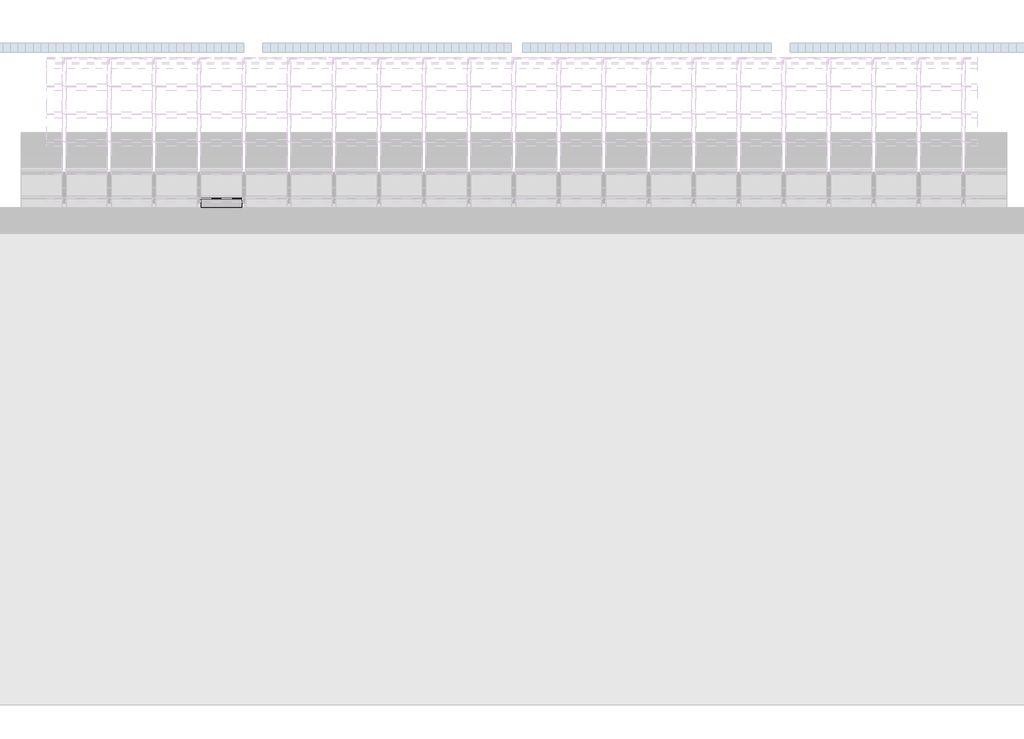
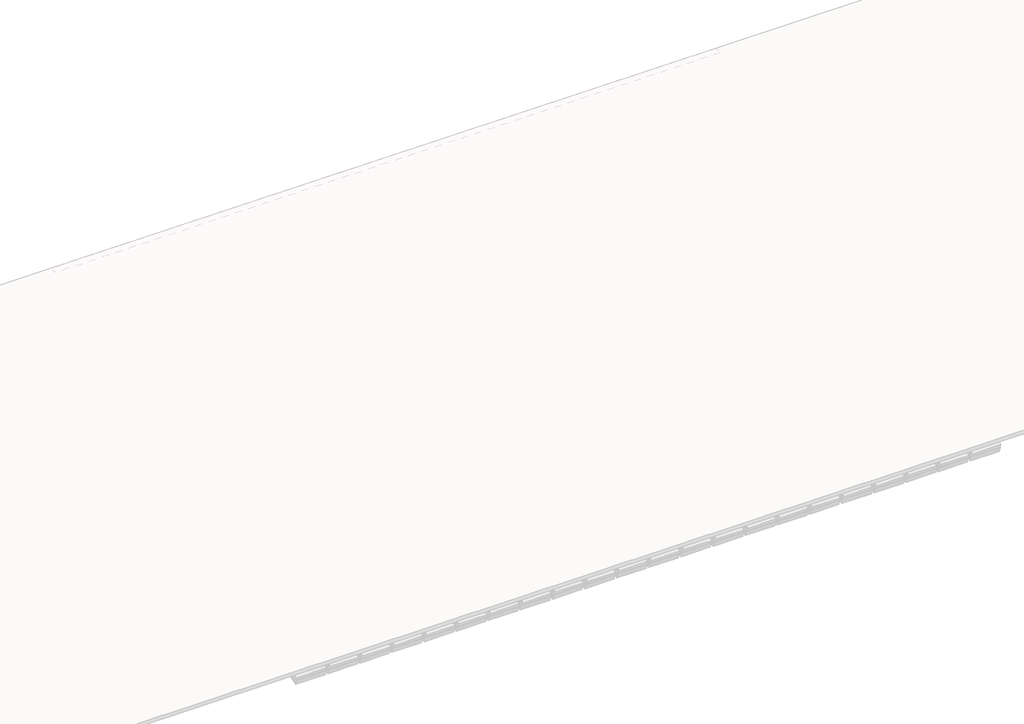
# One storey, part 29 of 57: 88 members, 36 plates.
"""IFC4 building model written with IfcOpenShell, lengths in millimetres."""

from ifc_helpers import new_model, si_unit, origin, place, context, project, spatial, transform, mapped, element, save
from components import rectangular_mullion_59984080, rectangular_mullion_2d2423ea, rectangular_mullion_caibro_e4384bba, rectangular_mullion_caibro_9bd7bc61, empty_system_panel_vazio_178faf58, empty_system_panel_vazio_2c78850d

model = new_model("IFC4")

# Units and contexts
model_context = context("Model", 3, world=origin())
ifc_project = project(units=[si_unit("LENGTHUNIT", "METRE", prefix="MILLI")], contexts=[model_context])

# Site, building, storey
site = spatial("IfcSite", under=ifc_project)
building = spatial("IfcBuilding", under=site)
storey = spatial("IfcBuildingStorey", under=building, Name="Nível 2", Elevation=4100.0)

# Members
placement = place(None, origin())
rectangular_mullion_shape = rectangular_mullion_59984080(model_context)
element("IfcMember", 1, ObjectType="Rectangular Mullion : Ripa", at=placement, inside=storey, context=model_context, shape_type="MappedRepresentation", body=[
    mapped(rectangular_mullion_shape, transform((22076.5423706, 10013.4695628, 4154.0900474), x_axis=(0.0, 0.9578262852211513, 0.2873478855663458), y_axis=(0.0, 0.2873478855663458, -0.9578262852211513), z_axis=(-1.0, 0.0, 0.0))),
])
element("IfcMember", 2, ObjectType="Rectangular Mullion : Ripa", at=placement, inside=storey, context=model_context, shape_type="MappedRepresentation", body=[
    mapped(rectangular_mullion_shape, transform((22673.597127, 10013.4695628, 4154.0900474), x_axis=(0.0, 0.9578262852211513, 0.2873478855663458), y_axis=(0.0, 0.2873478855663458, -0.9578262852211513), z_axis=(-1.0, 0.0, 0.0))),
])
element("IfcMember", 3, ObjectType="Rectangular Mullion : Ripa", at=placement, inside=storey, context=model_context, shape_type="MappedRepresentation", body=[
    mapped(rectangular_mullion_shape, transform((23270.6518835, 10013.4695628, 4154.0900474), x_axis=(0.0, 0.9578262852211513, 0.2873478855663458), y_axis=(0.0, 0.2873478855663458, -0.9578262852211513), z_axis=(-1.0, 0.0, 0.0))),
])
element("IfcMember", 4, ObjectType="Rectangular Mullion : Ripa", at=placement, inside=storey, context=model_context, shape_type="MappedRepresentation", body=[
    mapped(rectangular_mullion_shape, transform((23867.7066399, 10013.4695628, 4154.0900474), x_axis=(0.0, 0.9578262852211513, 0.2873478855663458), y_axis=(0.0, 0.2873478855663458, -0.9578262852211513), z_axis=(-1.0, 0.0, 0.0))),
])
element("IfcMember", 5, ObjectType="Rectangular Mullion : Ripa", at=placement, inside=storey, context=model_context, shape_type="MappedRepresentation", body=[
    mapped(rectangular_mullion_shape, transform((22076.5423706, 10383.6468214, 4265.143225), x_axis=(0.0, 0.9578262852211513, 0.2873478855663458), y_axis=(0.0, 0.2873478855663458, -0.9578262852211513), z_axis=(-1.0, 0.0, 0.0))),
])
element("IfcMember", 6, ObjectType="Rectangular Mullion : Ripa", at=placement, inside=storey, context=model_context, shape_type="MappedRepresentation", body=[
    mapped(rectangular_mullion_shape, transform((22673.597127, 10383.6468214, 4265.143225), x_axis=(0.0, 0.9578262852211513, 0.2873478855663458), y_axis=(0.0, 0.2873478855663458, -0.9578262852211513), z_axis=(-1.0, 0.0, 0.0))),
])
element("IfcMember", 7, ObjectType="Rectangular Mullion : Ripa", at=placement, inside=storey, context=model_context, shape_type="MappedRepresentation", body=[
    mapped(rectangular_mullion_shape, transform((23270.6518835, 10383.6468214, 4265.143225), x_axis=(0.0, 0.9578262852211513, 0.2873478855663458), y_axis=(0.0, 0.2873478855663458, -0.9578262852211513), z_axis=(-1.0, 0.0, 0.0))),
])
element("IfcMember", 8, ObjectType="Rectangular Mullion : Ripa", at=placement, inside=storey, context=model_context, shape_type="MappedRepresentation", body=[
    mapped(rectangular_mullion_shape, transform((23867.7066399, 10383.6468214, 4265.143225), x_axis=(0.0, 0.9578262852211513, 0.2873478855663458), y_axis=(0.0, 0.2873478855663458, -0.9578262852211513), z_axis=(-1.0, 0.0, 0.0))),
])
element("IfcMember", 9, ObjectType="Rectangular Mullion : Ripa", at=placement, inside=storey, context=model_context, shape_type="MappedRepresentation", body=[
    mapped(rectangular_mullion_shape, transform((22076.5423706, 10753.8240801, 4376.1964026), x_axis=(0.0, 0.9578262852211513, 0.2873478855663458), y_axis=(0.0, 0.2873478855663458, -0.9578262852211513), z_axis=(-1.0, 0.0, 0.0))),
])
element("IfcMember", 10, ObjectType="Rectangular Mullion : Ripa", at=placement, inside=storey, context=model_context, shape_type="MappedRepresentation", body=[
    mapped(rectangular_mullion_shape, transform((22673.597127, 10753.8240801, 4376.1964026), x_axis=(0.0, 0.9578262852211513, 0.2873478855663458), y_axis=(0.0, 0.2873478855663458, -0.9578262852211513), z_axis=(-1.0, 0.0, 0.0))),
])
element("IfcMember", 11, ObjectType="Rectangular Mullion : Ripa", at=placement, inside=storey, context=model_context, shape_type="MappedRepresentation", body=[
    mapped(rectangular_mullion_shape, transform((23270.6518835, 10753.8240801, 4376.1964026), x_axis=(0.0, 0.9578262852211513, 0.2873478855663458), y_axis=(0.0, 0.2873478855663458, -0.9578262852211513), z_axis=(-1.0, 0.0, 0.0))),
])
element("IfcMember", 12, ObjectType="Rectangular Mullion : Ripa", at=placement, inside=storey, context=model_context, shape_type="MappedRepresentation", body=[
    mapped(rectangular_mullion_shape, transform((23867.7066399, 10753.8240801, 4376.1964026), x_axis=(0.0, 0.9578262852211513, 0.2873478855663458), y_axis=(0.0, 0.2873478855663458, -0.9578262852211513), z_axis=(-1.0, 0.0, 0.0))),
])
element("IfcMember", 13, ObjectType="Rectangular Mullion : Ripa", at=placement, inside=storey, context=model_context, shape_type="MappedRepresentation", body=[
    mapped(rectangular_mullion_shape, transform((21479.4876142, 11124.0013387, 4487.2495802), x_axis=(0.0, 0.9578262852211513, 0.2873478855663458), y_axis=(0.0, 0.2873478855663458, -0.9578262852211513), z_axis=(-1.0, 0.0, 0.0))),
])
element("IfcMember", 14, ObjectType="Rectangular Mullion : Ripa", at=placement, inside=storey, context=model_context, shape_type="MappedRepresentation", body=[
    mapped(rectangular_mullion_shape, transform((22076.5423706, 11124.0013387, 4487.2495802), x_axis=(0.0, 0.9578262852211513, 0.2873478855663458), y_axis=(0.0, 0.2873478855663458, -0.9578262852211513), z_axis=(-1.0, 0.0, 0.0))),
])
element("IfcMember", 15, ObjectType="Rectangular Mullion : Ripa", at=placement, inside=storey, context=model_context, shape_type="MappedRepresentation", body=[
    mapped(rectangular_mullion_shape, transform((22673.597127, 11124.0013387, 4487.2495802), x_axis=(0.0, 0.9578262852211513, 0.2873478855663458), y_axis=(0.0, 0.2873478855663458, -0.9578262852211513), z_axis=(-1.0, 0.0, 0.0))),
])
element("IfcMember", 16, ObjectType="Rectangular Mullion : Ripa", at=placement, inside=storey, context=model_context, shape_type="MappedRepresentation", body=[
    mapped(rectangular_mullion_shape, transform((23270.6518835, 11124.0013387, 4487.2495802), x_axis=(0.0, 0.9578262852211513, 0.2873478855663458), y_axis=(0.0, 0.2873478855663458, -0.9578262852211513), z_axis=(-1.0, 0.0, 0.0))),
])
element("IfcMember", 17, ObjectType="Rectangular Mullion : Ripa", at=placement, inside=storey, context=model_context, shape_type="MappedRepresentation", body=[
    mapped(rectangular_mullion_shape, transform((23867.7066399, 11124.0013387, 4487.2495802), x_axis=(0.0, 0.9578262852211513, 0.2873478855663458), y_axis=(0.0, 0.2873478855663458, -0.9578262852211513), z_axis=(-1.0, 0.0, 0.0))),
])
element("IfcMember", 18, ObjectType="Rectangular Mullion : Ripa", at=placement, inside=storey, context=model_context, shape_type="MappedRepresentation", body=[
    mapped(rectangular_mullion_shape, transform((21479.4876142, 11494.1785974, 4598.3027578), x_axis=(0.0, 0.9578262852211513, 0.2873478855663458), y_axis=(0.0, 0.2873478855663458, -0.9578262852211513), z_axis=(-1.0, 0.0, 0.0))),
])
element("IfcMember", 19, ObjectType="Rectangular Mullion : Ripa", at=placement, inside=storey, context=model_context, shape_type="MappedRepresentation", body=[
    mapped(rectangular_mullion_shape, transform((22076.5423706, 11494.1785974, 4598.3027578), x_axis=(0.0, 0.9578262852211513, 0.2873478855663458), y_axis=(0.0, 0.2873478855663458, -0.9578262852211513), z_axis=(-1.0, 0.0, 0.0))),
])
element("IfcMember", 20, ObjectType="Rectangular Mullion : Ripa", at=placement, inside=storey, context=model_context, shape_type="MappedRepresentation", body=[
    mapped(rectangular_mullion_shape, transform((22673.597127, 11494.1785974, 4598.3027578), x_axis=(0.0, 0.9578262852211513, 0.2873478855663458), y_axis=(0.0, 0.2873478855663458, -0.9578262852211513), z_axis=(-1.0, 0.0, 0.0))),
])
element("IfcMember", 21, ObjectType="Rectangular Mullion : Ripa", at=placement, inside=storey, context=model_context, shape_type="MappedRepresentation", body=[
    mapped(rectangular_mullion_shape, transform((23270.6518835, 11494.1785974, 4598.3027578), x_axis=(0.0, 0.9578262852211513, 0.2873478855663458), y_axis=(0.0, 0.2873478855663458, -0.9578262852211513), z_axis=(-1.0, 0.0, 0.0))),
])
element("IfcMember", 22, ObjectType="Rectangular Mullion : Ripa", at=placement, inside=storey, context=model_context, shape_type="MappedRepresentation", body=[
    mapped(rectangular_mullion_shape, transform((23867.7066399, 11494.1785974, 4598.3027578), x_axis=(0.0, 0.9578262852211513, 0.2873478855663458), y_axis=(0.0, 0.2873478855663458, -0.9578262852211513), z_axis=(-1.0, 0.0, 0.0))),
])
element("IfcMember", 23, ObjectType="Rectangular Mullion : Ripa", at=placement, inside=storey, context=model_context, shape_type="MappedRepresentation", body=[
    mapped(rectangular_mullion_shape, transform((21479.4876142, 11864.3558561, 4709.3559354), x_axis=(0.0, 0.9578262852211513, 0.2873478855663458), y_axis=(0.0, 0.2873478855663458, -0.9578262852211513), z_axis=(-1.0, 0.0, 0.0))),
])
element("IfcMember", 24, ObjectType="Rectangular Mullion : Ripa", at=placement, inside=storey, context=model_context, shape_type="MappedRepresentation", body=[
    mapped(rectangular_mullion_shape, transform((22076.5423706, 11864.3558561, 4709.3559354), x_axis=(0.0, 0.9578262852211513, 0.2873478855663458), y_axis=(0.0, 0.2873478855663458, -0.9578262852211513), z_axis=(-1.0, 0.0, 0.0))),
])
element("IfcMember", 25, ObjectType="Rectangular Mullion : Ripa", at=placement, inside=storey, context=model_context, shape_type="MappedRepresentation", body=[
    mapped(rectangular_mullion_shape, transform((22673.597127, 11864.3558561, 4709.3559354), x_axis=(0.0, 0.9578262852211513, 0.2873478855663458), y_axis=(0.0, 0.2873478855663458, -0.9578262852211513), z_axis=(-1.0, 0.0, 0.0))),
])
element("IfcMember", 26, ObjectType="Rectangular Mullion : Ripa", at=placement, inside=storey, context=model_context, shape_type="MappedRepresentation", body=[
    mapped(rectangular_mullion_shape, transform((23270.6518835, 11864.3558561, 4709.3559354), x_axis=(0.0, 0.9578262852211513, 0.2873478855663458), y_axis=(0.0, 0.2873478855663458, -0.9578262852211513), z_axis=(-1.0, 0.0, 0.0))),
])
element("IfcMember", 27, ObjectType="Rectangular Mullion : Ripa", at=placement, inside=storey, context=model_context, shape_type="MappedRepresentation", body=[
    mapped(rectangular_mullion_shape, transform((23867.7066399, 11864.3558561, 4709.3559354), x_axis=(0.0, 0.9578262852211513, 0.2873478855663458), y_axis=(0.0, 0.2873478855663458, -0.9578262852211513), z_axis=(-1.0, 0.0, 0.0))),
])
element("IfcMember", 28, ObjectType="Rectangular Mullion : Ripa", at=placement, inside=storey, context=model_context, shape_type="MappedRepresentation", body=[
    mapped(rectangular_mullion_shape, transform((16105.9948064, 12234.5331147, 4820.409113), x_axis=(0.0, 0.9578262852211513, 0.2873478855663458), y_axis=(0.0, 0.2873478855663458, -0.9578262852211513), z_axis=(-1.0, 0.0, 0.0))),
])
element("IfcMember", 29, ObjectType="Rectangular Mullion : Ripa", at=placement, inside=storey, context=model_context, shape_type="MappedRepresentation", body=[
    mapped(rectangular_mullion_shape, transform((16703.0495628, 12234.5331147, 4820.409113), x_axis=(0.0, 0.9578262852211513, 0.2873478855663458), y_axis=(0.0, 0.2873478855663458, -0.9578262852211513), z_axis=(-1.0, 0.0, 0.0))),
])
element("IfcMember", 30, ObjectType="Rectangular Mullion : Ripa", at=placement, inside=storey, context=model_context, shape_type="MappedRepresentation", body=[
    mapped(rectangular_mullion_shape, transform((17300.1043192, 12234.5331147, 4820.409113), x_axis=(0.0, 0.9578262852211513, 0.2873478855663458), y_axis=(0.0, 0.2873478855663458, -0.9578262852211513), z_axis=(-1.0, 0.0, 0.0))),
])
element("IfcMember", 31, ObjectType="Rectangular Mullion : Ripa", at=placement, inside=storey, context=model_context, shape_type="MappedRepresentation", body=[
    mapped(rectangular_mullion_shape, transform((17897.1590756, 12234.5331147, 4820.409113), x_axis=(0.0, 0.9578262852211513, 0.2873478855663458), y_axis=(0.0, 0.2873478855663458, -0.9578262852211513), z_axis=(-1.0, 0.0, 0.0))),
])
element("IfcMember", 32, ObjectType="Rectangular Mullion : Ripa", at=placement, inside=storey, context=model_context, shape_type="MappedRepresentation", body=[
    mapped(rectangular_mullion_shape, transform((16105.9948064, 12604.7103734, 4931.4622906), x_axis=(0.0, 0.9578262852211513, 0.2873478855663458), y_axis=(0.0, 0.2873478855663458, -0.9578262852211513), z_axis=(-1.0, 0.0, 0.0))),
])
element("IfcMember", 33, ObjectType="Rectangular Mullion : Ripa", at=placement, inside=storey, context=model_context, shape_type="MappedRepresentation", body=[
    mapped(rectangular_mullion_shape, transform((16703.0495628, 12604.7103734, 4931.4622906), x_axis=(0.0, 0.9578262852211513, 0.2873478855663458), y_axis=(0.0, 0.2873478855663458, -0.9578262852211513), z_axis=(-1.0, 0.0, 0.0))),
])
element("IfcMember", 34, ObjectType="Rectangular Mullion : Ripa", at=placement, inside=storey, context=model_context, shape_type="MappedRepresentation", body=[
    mapped(rectangular_mullion_shape, transform((17300.1043192, 12604.7103734, 4931.4622906), x_axis=(0.0, 0.9578262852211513, 0.2873478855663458), y_axis=(0.0, 0.2873478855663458, -0.9578262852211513), z_axis=(-1.0, 0.0, 0.0))),
])
element("IfcMember", 35, ObjectType="Rectangular Mullion : Ripa", at=placement, inside=storey, context=model_context, shape_type="MappedRepresentation", body=[
    mapped(rectangular_mullion_shape, transform((17897.1590756, 12604.7103734, 4931.4622906), x_axis=(0.0, 0.9578262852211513, 0.2873478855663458), y_axis=(0.0, 0.2873478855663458, -0.9578262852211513), z_axis=(-1.0, 0.0, 0.0))),
])
element("IfcMember", 36, ObjectType="Rectangular Mullion : Ripa", at=placement, inside=storey, context=model_context, shape_type="MappedRepresentation", body=[
    mapped(rectangular_mullion_shape, transform((16105.9948064, 12974.8876321, 5042.5154682), x_axis=(0.0, 0.9578262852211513, 0.2873478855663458), y_axis=(0.0, 0.2873478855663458, -0.9578262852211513), z_axis=(-1.0, 0.0, 0.0))),
])
element("IfcMember", 37, ObjectType="Rectangular Mullion : Ripa", at=placement, inside=storey, context=model_context, shape_type="MappedRepresentation", body=[
    mapped(rectangular_mullion_shape, transform((16703.0495628, 12974.8876321, 5042.5154682), x_axis=(0.0, 0.9578262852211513, 0.2873478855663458), y_axis=(0.0, 0.2873478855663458, -0.9578262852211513), z_axis=(-1.0, 0.0, 0.0))),
])
element("IfcMember", 38, ObjectType="Rectangular Mullion : Ripa", at=placement, inside=storey, context=model_context, shape_type="MappedRepresentation", body=[
    mapped(rectangular_mullion_shape, transform((17300.1043192, 12974.8876321, 5042.5154682), x_axis=(0.0, 0.9578262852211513, 0.2873478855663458), y_axis=(0.0, 0.2873478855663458, -0.9578262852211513), z_axis=(-1.0, 0.0, 0.0))),
])
element("IfcMember", 39, ObjectType="Rectangular Mullion : Ripa", at=placement, inside=storey, context=model_context, shape_type="MappedRepresentation", body=[
    mapped(rectangular_mullion_shape, transform((17897.1590756, 12974.8876321, 5042.5154682), x_axis=(0.0, 0.9578262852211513, 0.2873478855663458), y_axis=(0.0, 0.2873478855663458, -0.9578262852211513), z_axis=(-1.0, 0.0, 0.0))),
])
rectangular_mullion_2_shape = rectangular_mullion_2d2423ea(model_context)
element("IfcMember", 40, ObjectType="Rectangular Mullion : Terça", at=placement, inside=storey, context=model_context, shape_type="MappedRepresentation", body=[
    mapped(rectangular_mullion_2_shape, transform((21479.4876142, 11285.144311, 4472.9506328), x_axis=(0.0, 0.9578262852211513, 0.2873478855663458), y_axis=(0.0, 0.2873478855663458, -0.9578262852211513), z_axis=(-1.0, 0.0, 0.0))),
])
element("IfcMember", 41, ObjectType="Rectangular Mullion : Terça", at=placement, inside=storey, context=model_context, shape_type="MappedRepresentation", body=[
    mapped(rectangular_mullion_2_shape, transform((22076.5423706, 11285.144311, 4472.9506328), x_axis=(0.0, 0.9578262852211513, 0.2873478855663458), y_axis=(0.0, 0.2873478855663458, -0.9578262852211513), z_axis=(-1.0, 0.0, 0.0))),
])
element("IfcMember", 42, ObjectType="Rectangular Mullion : Terça", at=placement, inside=storey, context=model_context, shape_type="MappedRepresentation", body=[
    mapped(rectangular_mullion_2_shape, transform((22673.597127, 11285.144311, 4472.9506328), x_axis=(0.0, 0.9578262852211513, 0.2873478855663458), y_axis=(0.0, 0.2873478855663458, -0.9578262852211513), z_axis=(-1.0, 0.0, 0.0))),
])
element("IfcMember", 43, ObjectType="Rectangular Mullion : Terça", at=placement, inside=storey, context=model_context, shape_type="MappedRepresentation", body=[
    mapped(rectangular_mullion_2_shape, transform((23270.6518835, 11285.144311, 4472.9506328), x_axis=(0.0, 0.9578262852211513, 0.2873478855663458), y_axis=(0.0, 0.2873478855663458, -0.9578262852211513), z_axis=(-1.0, 0.0, 0.0))),
])
element("IfcMember", 44, ObjectType="Rectangular Mullion : Terça", at=placement, inside=storey, context=model_context, shape_type="MappedRepresentation", body=[
    mapped(rectangular_mullion_2_shape, transform((23867.7066399, 11285.144311, 4472.9506328), x_axis=(0.0, 0.9578262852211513, 0.2873478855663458), y_axis=(0.0, 0.2873478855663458, -0.9578262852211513), z_axis=(-1.0, 0.0, 0.0))),
])
rectangular_mullion_caibro_shape = rectangular_mullion_caibro_e4384bba(model_context)
element("IfcMember", 45, ObjectType="Rectangular Mullion : Caibro", at=placement, inside=storey, context=model_context, shape_type="MappedRepresentation", body=[
    mapped(rectangular_mullion_caibro_shape, transform((16080.9948064, 12234.5331147, 4820.409113), x_axis=(1.0, 0.0, 0.0), y_axis=(0.0, 0.2873478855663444, -0.9578262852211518), z_axis=(0.0, 0.9578262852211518, 0.2873478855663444))),
])
element("IfcMember", 46, ObjectType="Rectangular Mullion : Caibro", at=placement, inside=storey, context=model_context, shape_type="MappedRepresentation", body=[
    mapped(rectangular_mullion_caibro_shape, transform((16080.9948064, 12604.7103734, 4931.4622906), x_axis=(1.0, 0.0, 0.0), y_axis=(0.0, 0.2873478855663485, -0.9578262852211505), z_axis=(0.0, 0.9578262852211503, 0.28734788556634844))),
])
element("IfcMember", 47, ObjectType="Rectangular Mullion : Caibro", at=placement, inside=storey, context=model_context, shape_type="MappedRepresentation", body=[
    mapped(rectangular_mullion_caibro_shape, transform((16080.9948064, 12974.8876321, 5042.5154682), x_axis=(1.0, 0.0, 0.0), y_axis=(0.0, 0.2873478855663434, -0.957826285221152), z_axis=(0.0, 0.957826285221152, 0.2873478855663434))),
])
element("IfcMember", 48, ObjectType="Rectangular Mullion : Caibro", at=placement, inside=storey, context=model_context, shape_type="MappedRepresentation", body=[
    mapped(rectangular_mullion_caibro_shape, transform((16678.0495628, 12234.5331147, 4820.409113), x_axis=(1.0, 0.0, 0.0), y_axis=(0.0, 0.2873478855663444, -0.9578262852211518), z_axis=(0.0, 0.9578262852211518, 0.2873478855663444))),
])
element("IfcMember", 49, ObjectType="Rectangular Mullion : Caibro", at=placement, inside=storey, context=model_context, shape_type="MappedRepresentation", body=[
    mapped(rectangular_mullion_caibro_shape, transform((16678.0495628, 12604.7103734, 4931.4622906), x_axis=(1.0, 0.0, 0.0), y_axis=(0.0, 0.28734788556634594, -0.9578262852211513), z_axis=(0.0, 0.9578262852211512, 0.2873478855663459))),
])
element("IfcMember", 50, ObjectType="Rectangular Mullion : Caibro", at=placement, inside=storey, context=model_context, shape_type="MappedRepresentation", body=[
    mapped(rectangular_mullion_caibro_shape, transform((16678.0495628, 12974.8876321, 5042.5154682), x_axis=(1.0, 0.0, 0.0), y_axis=(0.0, 0.28734788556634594, -0.9578262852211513), z_axis=(0.0, 0.9578262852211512, 0.2873478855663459))),
])
element("IfcMember", 51, ObjectType="Rectangular Mullion : Caibro", at=placement, inside=storey, context=model_context, shape_type="MappedRepresentation", body=[
    mapped(rectangular_mullion_caibro_shape, transform((17275.1043192, 12234.5331147, 4820.409113), x_axis=(1.0, 0.0, 0.0), y_axis=(0.0, 0.2873478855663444, -0.9578262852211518), z_axis=(0.0, 0.9578262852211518, 0.2873478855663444))),
])
element("IfcMember", 52, ObjectType="Rectangular Mullion : Caibro", at=placement, inside=storey, context=model_context, shape_type="MappedRepresentation", body=[
    mapped(rectangular_mullion_caibro_shape, transform((17275.1043192, 12604.7103734, 4931.4622906), x_axis=(1.0, 0.0, 0.0), y_axis=(0.0, 0.28734788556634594, -0.9578262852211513), z_axis=(0.0, 0.9578262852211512, 0.2873478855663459))),
])
element("IfcMember", 53, ObjectType="Rectangular Mullion : Caibro", at=placement, inside=storey, context=model_context, shape_type="MappedRepresentation", body=[
    mapped(rectangular_mullion_caibro_shape, transform((17275.1043192, 12974.8876321, 5042.5154682), x_axis=(1.0, 0.0, 0.0), y_axis=(0.0, 0.28734788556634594, -0.9578262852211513), z_axis=(0.0, 0.9578262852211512, 0.2873478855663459))),
])
element("IfcMember", 54, ObjectType="Rectangular Mullion : Caibro", at=placement, inside=storey, context=model_context, shape_type="MappedRepresentation", body=[
    mapped(rectangular_mullion_caibro_shape, transform((17872.1590756, 12234.5331147, 4820.409113), x_axis=(1.0, 0.0, 0.0), y_axis=(0.0, 0.2873478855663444, -0.9578262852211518), z_axis=(0.0, 0.9578262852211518, 0.2873478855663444))),
])
element("IfcMember", 55, ObjectType="Rectangular Mullion : Caibro", at=placement, inside=storey, context=model_context, shape_type="MappedRepresentation", body=[
    mapped(rectangular_mullion_caibro_shape, transform((17872.1590756, 12604.7103734, 4931.4622906), x_axis=(1.0, 0.0, 0.0), y_axis=(0.0, 0.28734788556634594, -0.9578262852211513), z_axis=(0.0, 0.9578262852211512, 0.2873478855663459))),
])
element("IfcMember", 56, ObjectType="Rectangular Mullion : Caibro", at=placement, inside=storey, context=model_context, shape_type="MappedRepresentation", body=[
    mapped(rectangular_mullion_caibro_shape, transform((17872.1590756, 12974.8876321, 5042.5154682), x_axis=(1.0, 0.0, 0.0), y_axis=(0.0, 0.28734788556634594, -0.9578262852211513), z_axis=(0.0, 0.9578262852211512, 0.2873478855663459))),
])
element("IfcMember", 57, ObjectType="Rectangular Mullion : Caibro", at=placement, inside=storey, context=model_context, shape_type="MappedRepresentation", body=[
    mapped(rectangular_mullion_caibro_shape, transform((21454.4876142, 11124.0013387, 4487.2495802), x_axis=(1.0, 0.0, 0.0), y_axis=(0.0, 0.2873478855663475, -0.9578262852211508), z_axis=(0.0, 0.9578262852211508, 0.2873478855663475))),
])
element("IfcMember", 58, ObjectType="Rectangular Mullion : Caibro", at=placement, inside=storey, context=model_context, shape_type="MappedRepresentation", body=[
    mapped(rectangular_mullion_caibro_shape, transform((21454.4876142, 11494.1785974, 4598.3027578), x_axis=(1.0, 0.0, 0.0), y_axis=(0.0, 0.28734788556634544, -0.9578262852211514), z_axis=(0.0, 0.9578262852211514, 0.28734788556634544))),
])
element("IfcMember", 59, ObjectType="Rectangular Mullion : Caibro", at=placement, inside=storey, context=model_context, shape_type="MappedRepresentation", body=[
    mapped(rectangular_mullion_caibro_shape, transform((21454.4876142, 11864.3558561, 4709.3559354), x_axis=(1.0, 0.0, 0.0), y_axis=(0.0, 0.28734788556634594, -0.9578262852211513), z_axis=(0.0, 0.9578262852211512, 0.2873478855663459))),
])
element("IfcMember", 60, ObjectType="Rectangular Mullion : Caibro", at=placement, inside=storey, context=model_context, shape_type="MappedRepresentation", body=[
    mapped(rectangular_mullion_caibro_shape, transform((22051.5423706, 10013.4695628, 4154.0900474), x_axis=(1.0, 0.0, 0.0), y_axis=(0.0, 0.28734788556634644, -0.9578262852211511), z_axis=(0.0, 0.957826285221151, 0.2873478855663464))),
])
element("IfcMember", 61, ObjectType="Rectangular Mullion : Caibro", at=placement, inside=storey, context=model_context, shape_type="MappedRepresentation", body=[
    mapped(rectangular_mullion_caibro_shape, transform((22051.5423706, 10383.6468214, 4265.143225), x_axis=(1.0, 0.0, 0.0), y_axis=(0.0, 0.28734788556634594, -0.9578262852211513), z_axis=(0.0, 0.9578262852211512, 0.2873478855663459))),
])
element("IfcMember", 62, ObjectType="Rectangular Mullion : Caibro", at=placement, inside=storey, context=model_context, shape_type="MappedRepresentation", body=[
    mapped(rectangular_mullion_caibro_shape, transform((22051.5423706, 10753.8240801, 4376.1964026), x_axis=(1.0, 0.0, 0.0), y_axis=(0.0, 0.28734788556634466, -0.9578262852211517), z_axis=(0.0, 0.9578262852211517, 0.28734788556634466))),
])
element("IfcMember", 63, ObjectType="Rectangular Mullion : Caibro", at=placement, inside=storey, context=model_context, shape_type="MappedRepresentation", body=[
    mapped(rectangular_mullion_caibro_shape, transform((22051.5423706, 11124.0013387, 4487.2495802), x_axis=(1.0, 0.0, 0.0), y_axis=(0.0, 0.2873478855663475, -0.9578262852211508), z_axis=(0.0, 0.9578262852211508, 0.2873478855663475))),
])
element("IfcMember", 64, ObjectType="Rectangular Mullion : Caibro", at=placement, inside=storey, context=model_context, shape_type="MappedRepresentation", body=[
    mapped(rectangular_mullion_caibro_shape, transform((22051.5423706, 11494.1785974, 4598.3027578), x_axis=(1.0, 0.0, 0.0), y_axis=(0.0, 0.28734788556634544, -0.9578262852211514), z_axis=(0.0, 0.9578262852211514, 0.28734788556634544))),
])
element("IfcMember", 65, ObjectType="Rectangular Mullion : Caibro", at=placement, inside=storey, context=model_context, shape_type="MappedRepresentation", body=[
    mapped(rectangular_mullion_caibro_shape, transform((22051.5423706, 11864.3558561, 4709.3559354), x_axis=(1.0, 0.0, 0.0), y_axis=(0.0, 0.28734788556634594, -0.9578262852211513), z_axis=(0.0, 0.9578262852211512, 0.2873478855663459))),
])
element("IfcMember", 66, ObjectType="Rectangular Mullion : Caibro", at=placement, inside=storey, context=model_context, shape_type="MappedRepresentation", body=[
    mapped(rectangular_mullion_caibro_shape, transform((22648.597127, 10013.4695628, 4154.0900474), x_axis=(1.0, 0.0, 0.0), y_axis=(0.0, 0.28734788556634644, -0.9578262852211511), z_axis=(0.0, 0.957826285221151, 0.2873478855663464))),
])
element("IfcMember", 67, ObjectType="Rectangular Mullion : Caibro", at=placement, inside=storey, context=model_context, shape_type="MappedRepresentation", body=[
    mapped(rectangular_mullion_caibro_shape, transform((22648.597127, 10383.6468214, 4265.143225), x_axis=(1.0, 0.0, 0.0), y_axis=(0.0, 0.28734788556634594, -0.9578262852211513), z_axis=(0.0, 0.9578262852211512, 0.2873478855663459))),
])
element("IfcMember", 68, ObjectType="Rectangular Mullion : Caibro", at=placement, inside=storey, context=model_context, shape_type="MappedRepresentation", body=[
    mapped(rectangular_mullion_caibro_shape, transform((22648.597127, 10753.8240801, 4376.1964026), x_axis=(1.0, 0.0, 0.0), y_axis=(0.0, 0.28734788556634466, -0.9578262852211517), z_axis=(0.0, 0.9578262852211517, 0.28734788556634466))),
])
element("IfcMember", 69, ObjectType="Rectangular Mullion : Caibro", at=placement, inside=storey, context=model_context, shape_type="MappedRepresentation", body=[
    mapped(rectangular_mullion_caibro_shape, transform((22648.597127, 11124.0013387, 4487.2495802), x_axis=(1.0, 0.0, 0.0), y_axis=(0.0, 0.2873478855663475, -0.9578262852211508), z_axis=(0.0, 0.9578262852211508, 0.2873478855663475))),
])
element("IfcMember", 70, ObjectType="Rectangular Mullion : Caibro", at=placement, inside=storey, context=model_context, shape_type="MappedRepresentation", body=[
    mapped(rectangular_mullion_caibro_shape, transform((22648.597127, 11494.1785974, 4598.3027578), x_axis=(1.0, 0.0, 0.0), y_axis=(0.0, 0.28734788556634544, -0.9578262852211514), z_axis=(0.0, 0.9578262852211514, 0.28734788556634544))),
])
element("IfcMember", 71, ObjectType="Rectangular Mullion : Caibro", at=placement, inside=storey, context=model_context, shape_type="MappedRepresentation", body=[
    mapped(rectangular_mullion_caibro_shape, transform((22648.597127, 11864.3558561, 4709.3559354), x_axis=(1.0, 0.0, 0.0), y_axis=(0.0, 0.28734788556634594, -0.9578262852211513), z_axis=(0.0, 0.9578262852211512, 0.2873478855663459))),
])
element("IfcMember", 72, ObjectType="Rectangular Mullion : Caibro", at=placement, inside=storey, context=model_context, shape_type="MappedRepresentation", body=[
    mapped(rectangular_mullion_caibro_shape, transform((23245.6518835, 10013.4695628, 4154.0900474), x_axis=(1.0, 0.0, 0.0), y_axis=(0.0, 0.287347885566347, -0.9578262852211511), z_axis=(0.0, 0.9578262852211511, 0.287347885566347))),
])
element("IfcMember", 73, ObjectType="Rectangular Mullion : Caibro", at=placement, inside=storey, context=model_context, shape_type="MappedRepresentation", body=[
    mapped(rectangular_mullion_caibro_shape, transform((23245.6518835, 10383.6468214, 4265.143225), x_axis=(1.0, 0.0, 0.0), y_axis=(0.0, 0.28734788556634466, -0.9578262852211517), z_axis=(0.0, 0.9578262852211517, 0.28734788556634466))),
])
element("IfcMember", 74, ObjectType="Rectangular Mullion : Caibro", at=placement, inside=storey, context=model_context, shape_type="MappedRepresentation", body=[
    mapped(rectangular_mullion_caibro_shape, transform((23245.6518835, 10753.8240801, 4376.1964026), x_axis=(1.0, 0.0, 0.0), y_axis=(0.0, 0.28734788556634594, -0.9578262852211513), z_axis=(0.0, 0.9578262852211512, 0.2873478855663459))),
])
element("IfcMember", 75, ObjectType="Rectangular Mullion : Caibro", at=placement, inside=storey, context=model_context, shape_type="MappedRepresentation", body=[
    mapped(rectangular_mullion_caibro_shape, transform((23245.6518835, 11124.0013387, 4487.2495802), x_axis=(1.0, 0.0, 0.0), y_axis=(0.0, 0.28734788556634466, -0.9578262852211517), z_axis=(0.0, 0.9578262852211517, 0.28734788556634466))),
])
element("IfcMember", 76, ObjectType="Rectangular Mullion : Caibro", at=placement, inside=storey, context=model_context, shape_type="MappedRepresentation", body=[
    mapped(rectangular_mullion_caibro_shape, transform((23245.6518835, 11494.1785974, 4598.3027578), x_axis=(1.0, 0.0, 0.0), y_axis=(0.0, 0.287347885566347, -0.9578262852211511), z_axis=(0.0, 0.9578262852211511, 0.287347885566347))),
])
element("IfcMember", 77, ObjectType="Rectangular Mullion : Caibro", at=placement, inside=storey, context=model_context, shape_type="MappedRepresentation", body=[
    mapped(rectangular_mullion_caibro_shape, transform((23245.6518835, 11864.3558561, 4709.3559354), x_axis=(1.0, 0.0, 0.0), y_axis=(0.0, 0.28734788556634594, -0.9578262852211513), z_axis=(0.0, 0.9578262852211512, 0.2873478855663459))),
])
element("IfcMember", 78, ObjectType="Rectangular Mullion : Caibro", at=placement, inside=storey, context=model_context, shape_type="MappedRepresentation", body=[
    mapped(rectangular_mullion_caibro_shape, transform((23842.7066399, 10013.4695628, 4154.0900474), x_axis=(1.0, 0.0, 0.0), y_axis=(0.0, 0.28734788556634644, -0.9578262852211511), z_axis=(0.0, 0.957826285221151, 0.2873478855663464))),
])
element("IfcMember", 79, ObjectType="Rectangular Mullion : Caibro", at=placement, inside=storey, context=model_context, shape_type="MappedRepresentation", body=[
    mapped(rectangular_mullion_caibro_shape, transform((23842.7066399, 10383.6468214, 4265.143225), x_axis=(1.0, 0.0, 0.0), y_axis=(0.0, 0.28734788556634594, -0.9578262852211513), z_axis=(0.0, 0.9578262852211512, 0.2873478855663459))),
])
element("IfcMember", 80, ObjectType="Rectangular Mullion : Caibro", at=placement, inside=storey, context=model_context, shape_type="MappedRepresentation", body=[
    mapped(rectangular_mullion_caibro_shape, transform((23842.7066399, 10753.8240801, 4376.1964026), x_axis=(1.0, 0.0, 0.0), y_axis=(0.0, 0.28734788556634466, -0.9578262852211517), z_axis=(0.0, 0.9578262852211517, 0.28734788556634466))),
])
element("IfcMember", 81, ObjectType="Rectangular Mullion : Caibro", at=placement, inside=storey, context=model_context, shape_type="MappedRepresentation", body=[
    mapped(rectangular_mullion_caibro_shape, transform((23842.7066399, 11124.0013387, 4487.2495802), x_axis=(1.0, 0.0, 0.0), y_axis=(0.0, 0.2873478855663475, -0.9578262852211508), z_axis=(0.0, 0.9578262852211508, 0.2873478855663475))),
])
element("IfcMember", 82, ObjectType="Rectangular Mullion : Caibro", at=placement, inside=storey, context=model_context, shape_type="MappedRepresentation", body=[
    mapped(rectangular_mullion_caibro_shape, transform((23842.7066399, 11494.1785974, 4598.3027578), x_axis=(1.0, 0.0, 0.0), y_axis=(0.0, 0.28734788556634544, -0.9578262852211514), z_axis=(0.0, 0.9578262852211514, 0.28734788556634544))),
])
element("IfcMember", 83, ObjectType="Rectangular Mullion : Caibro", at=placement, inside=storey, context=model_context, shape_type="MappedRepresentation", body=[
    mapped(rectangular_mullion_caibro_shape, transform((23842.7066399, 11864.3558561, 4709.3559354), x_axis=(1.0, 0.0, 0.0), y_axis=(0.0, 0.28734788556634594, -0.9578262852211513), z_axis=(0.0, 0.9578262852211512, 0.2873478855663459))),
])
rectangular_mullion_caibro_2_shape = rectangular_mullion_caibro_9bd7bc61(model_context)
element("IfcMember", 84, ObjectType="Rectangular Mullion : Caibro", at=placement, inside=storey, context=model_context, shape_type="MappedRepresentation", body=[
    mapped(rectangular_mullion_caibro_2_shape, transform((21454.4876142, 11285.144311, 4472.9506328), x_axis=(1.0, 0.0, 0.0), y_axis=(0.0, 0.28734788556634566, -0.9578262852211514), z_axis=(0.0, 0.9578262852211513, 0.2873478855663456))),
])
element("IfcMember", 85, ObjectType="Rectangular Mullion : Caibro", at=placement, inside=storey, context=model_context, shape_type="MappedRepresentation", body=[
    mapped(rectangular_mullion_caibro_2_shape, transform((22051.5423706, 11285.144311, 4472.9506328), x_axis=(1.0, 0.0, 0.0), y_axis=(0.0, 0.28734788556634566, -0.9578262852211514), z_axis=(0.0, 0.9578262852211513, 0.2873478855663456))),
])
element("IfcMember", 86, ObjectType="Rectangular Mullion : Caibro", at=placement, inside=storey, context=model_context, shape_type="MappedRepresentation", body=[
    mapped(rectangular_mullion_caibro_2_shape, transform((22648.597127, 11285.144311, 4472.9506328), x_axis=(1.0, 0.0, 0.0), y_axis=(0.0, 0.28734788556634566, -0.9578262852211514), z_axis=(0.0, 0.9578262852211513, 0.2873478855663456))),
])
element("IfcMember", 87, ObjectType="Rectangular Mullion : Caibro", at=placement, inside=storey, context=model_context, shape_type="MappedRepresentation", body=[
    mapped(rectangular_mullion_caibro_2_shape, transform((23245.6518835, 11285.144311, 4472.9506328), x_axis=(1.0, 0.0, 0.0), y_axis=(0.0, 0.28734788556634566, -0.9578262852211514), z_axis=(0.0, 0.9578262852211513, 0.2873478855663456))),
])
element("IfcMember", 88, ObjectType="Rectangular Mullion : Caibro", at=placement, inside=storey, context=model_context, shape_type="MappedRepresentation", body=[
    mapped(rectangular_mullion_caibro_2_shape, transform((23842.7066399, 11285.144311, 4472.9506328), x_axis=(1.0, 0.0, 0.0), y_axis=(0.0, 0.28734788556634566, -0.9578262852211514), z_axis=(0.0, 0.9578262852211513, 0.2873478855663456))),
])

# Plates
empty_system_panel_vazio_shape = empty_system_panel_vazio_178faf58(model_context)
element("IfcPlate", 89, ObjectType="Empty System Panel : Vazio", at=placement, inside=storey, context=model_context, shape_type="MappedRepresentation", body=[
    mapped(empty_system_panel_vazio_shape, transform((22350.0697488, 10013.4695628, 4154.0900474), x_axis=(1.0, 0.0, 0.0), y_axis=(0.0, 0.2873478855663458, -0.9578262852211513), z_axis=(0.0, 0.9578262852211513, 0.2873478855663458))),
])
element("IfcPlate", 90, ObjectType="Empty System Panel : Vazio", at=placement, inside=storey, context=model_context, shape_type="MappedRepresentation", body=[
    mapped(empty_system_panel_vazio_shape, transform((22947.1245052, 10013.4695628, 4154.0900474), x_axis=(1.0, 0.0, 0.0), y_axis=(0.0, 0.2873478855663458, -0.9578262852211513), z_axis=(0.0, 0.9578262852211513, 0.2873478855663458))),
])
element("IfcPlate", 91, ObjectType="Empty System Panel : Vazio", at=placement, inside=storey, context=model_context, shape_type="MappedRepresentation", body=[
    mapped(empty_system_panel_vazio_shape, transform((23544.1792617, 10013.4695628, 4154.0900474), x_axis=(1.0, 0.0, 0.0), y_axis=(0.0, 0.2873478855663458, -0.9578262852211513), z_axis=(0.0, 0.9578262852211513, 0.2873478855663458))),
])
element("IfcPlate", 92, ObjectType="Empty System Panel : Vazio", at=placement, inside=storey, context=model_context, shape_type="MappedRepresentation", body=[
    mapped(empty_system_panel_vazio_shape, transform((22350.0697488, 10383.6468214, 4265.143225), x_axis=(1.0, 0.0, 0.0), y_axis=(0.0, 0.2873478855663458, -0.9578262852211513), z_axis=(0.0, 0.9578262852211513, 0.2873478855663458))),
])
element("IfcPlate", 93, ObjectType="Empty System Panel : Vazio", at=placement, inside=storey, context=model_context, shape_type="MappedRepresentation", body=[
    mapped(empty_system_panel_vazio_shape, transform((22947.1245052, 10383.6468214, 4265.143225), x_axis=(1.0, 0.0, 0.0), y_axis=(0.0, 0.2873478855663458, -0.9578262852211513), z_axis=(0.0, 0.9578262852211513, 0.2873478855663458))),
])
element("IfcPlate", 94, ObjectType="Empty System Panel : Vazio", at=placement, inside=storey, context=model_context, shape_type="MappedRepresentation", body=[
    mapped(empty_system_panel_vazio_shape, transform((23544.1792617, 10383.6468214, 4265.143225), x_axis=(1.0, 0.0, 0.0), y_axis=(0.0, 0.2873478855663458, -0.9578262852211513), z_axis=(0.0, 0.9578262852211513, 0.2873478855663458))),
])
element("IfcPlate", 95, ObjectType="Empty System Panel : Vazio", at=placement, inside=storey, context=model_context, shape_type="MappedRepresentation", body=[
    mapped(empty_system_panel_vazio_shape, transform((22350.0697488, 10753.8240801, 4376.1964026), x_axis=(1.0, 0.0, 0.0), y_axis=(0.0, 0.2873478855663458, -0.9578262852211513), z_axis=(0.0, 0.9578262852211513, 0.2873478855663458))),
])
element("IfcPlate", 96, ObjectType="Empty System Panel : Vazio", at=placement, inside=storey, context=model_context, shape_type="MappedRepresentation", body=[
    mapped(empty_system_panel_vazio_shape, transform((22947.1245052, 10753.8240801, 4376.1964026), x_axis=(1.0, 0.0, 0.0), y_axis=(0.0, 0.2873478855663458, -0.9578262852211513), z_axis=(0.0, 0.9578262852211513, 0.2873478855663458))),
])
element("IfcPlate", 97, ObjectType="Empty System Panel : Vazio", at=placement, inside=storey, context=model_context, shape_type="MappedRepresentation", body=[
    mapped(empty_system_panel_vazio_shape, transform((23544.1792617, 10753.8240801, 4376.1964026), x_axis=(1.0, 0.0, 0.0), y_axis=(0.0, 0.2873478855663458, -0.9578262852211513), z_axis=(0.0, 0.9578262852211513, 0.2873478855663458))),
])
element("IfcPlate", 98, ObjectType="Empty System Panel : Vazio", at=placement, inside=storey, context=model_context, shape_type="MappedRepresentation", body=[
    mapped(empty_system_panel_vazio_shape, transform((22350.0697488, 11124.0013387, 4487.2495802), x_axis=(1.0, 0.0, 0.0), y_axis=(0.0, 0.2873478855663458, -0.9578262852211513), z_axis=(0.0, 0.9578262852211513, 0.2873478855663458))),
])
element("IfcPlate", 99, ObjectType="Empty System Panel : Vazio", at=placement, inside=storey, context=model_context, shape_type="MappedRepresentation", body=[
    mapped(empty_system_panel_vazio_shape, transform((22947.1245052, 11124.0013387, 4487.2495802), x_axis=(1.0, 0.0, 0.0), y_axis=(0.0, 0.2873478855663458, -0.9578262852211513), z_axis=(0.0, 0.9578262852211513, 0.2873478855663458))),
])
element("IfcPlate", 100, ObjectType="Empty System Panel : Vazio", at=placement, inside=storey, context=model_context, shape_type="MappedRepresentation", body=[
    mapped(empty_system_panel_vazio_shape, transform((23544.1792617, 11124.0013387, 4487.2495802), x_axis=(1.0, 0.0, 0.0), y_axis=(0.0, 0.2873478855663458, -0.9578262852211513), z_axis=(0.0, 0.9578262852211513, 0.2873478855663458))),
])
element("IfcPlate", 101, ObjectType="Empty System Panel : Vazio", at=placement, inside=storey, context=model_context, shape_type="MappedRepresentation", body=[
    mapped(empty_system_panel_vazio_shape, transform((21753.0149924, 11494.1785974, 4598.3027578), x_axis=(1.0, 0.0, 0.0), y_axis=(0.0, 0.2873478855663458, -0.9578262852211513), z_axis=(0.0, 0.9578262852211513, 0.2873478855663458))),
])
element("IfcPlate", 102, ObjectType="Empty System Panel : Vazio", at=placement, inside=storey, context=model_context, shape_type="MappedRepresentation", body=[
    mapped(empty_system_panel_vazio_shape, transform((22350.0697488, 11494.1785974, 4598.3027578), x_axis=(1.0, 0.0, 0.0), y_axis=(0.0, 0.2873478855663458, -0.9578262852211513), z_axis=(0.0, 0.9578262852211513, 0.2873478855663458))),
])
element("IfcPlate", 103, ObjectType="Empty System Panel : Vazio", at=placement, inside=storey, context=model_context, shape_type="MappedRepresentation", body=[
    mapped(empty_system_panel_vazio_shape, transform((22947.1245052, 11494.1785974, 4598.3027578), x_axis=(1.0, 0.0, 0.0), y_axis=(0.0, 0.2873478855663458, -0.9578262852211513), z_axis=(0.0, 0.9578262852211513, 0.2873478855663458))),
])
element("IfcPlate", 104, ObjectType="Empty System Panel : Vazio", at=placement, inside=storey, context=model_context, shape_type="MappedRepresentation", body=[
    mapped(empty_system_panel_vazio_shape, transform((23544.1792617, 11494.1785974, 4598.3027578), x_axis=(1.0, 0.0, 0.0), y_axis=(0.0, 0.2873478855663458, -0.9578262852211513), z_axis=(0.0, 0.9578262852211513, 0.2873478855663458))),
])
element("IfcPlate", 105, ObjectType="Empty System Panel : Vazio", at=placement, inside=storey, context=model_context, shape_type="MappedRepresentation", body=[
    mapped(empty_system_panel_vazio_shape, transform((21155.960236, 11864.3558561, 4709.3559354), x_axis=(1.0, 0.0, 0.0), y_axis=(0.0, 0.2873478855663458, -0.9578262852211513), z_axis=(0.0, 0.9578262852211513, 0.2873478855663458))),
])
element("IfcPlate", 106, ObjectType="Empty System Panel : Vazio", at=placement, inside=storey, context=model_context, shape_type="MappedRepresentation", body=[
    mapped(empty_system_panel_vazio_shape, transform((21753.0149924, 11864.3558561, 4709.3559354), x_axis=(1.0, 0.0, 0.0), y_axis=(0.0, 0.2873478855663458, -0.9578262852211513), z_axis=(0.0, 0.9578262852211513, 0.2873478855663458))),
])
element("IfcPlate", 107, ObjectType="Empty System Panel : Vazio", at=placement, inside=storey, context=model_context, shape_type="MappedRepresentation", body=[
    mapped(empty_system_panel_vazio_shape, transform((22350.0697488, 11864.3558561, 4709.3559354), x_axis=(1.0, 0.0, 0.0), y_axis=(0.0, 0.2873478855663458, -0.9578262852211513), z_axis=(0.0, 0.9578262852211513, 0.2873478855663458))),
])
element("IfcPlate", 108, ObjectType="Empty System Panel : Vazio", at=placement, inside=storey, context=model_context, shape_type="MappedRepresentation", body=[
    mapped(empty_system_panel_vazio_shape, transform((22947.1245052, 11864.3558561, 4709.3559354), x_axis=(1.0, 0.0, 0.0), y_axis=(0.0, 0.2873478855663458, -0.9578262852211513), z_axis=(0.0, 0.9578262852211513, 0.2873478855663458))),
])
element("IfcPlate", 109, ObjectType="Empty System Panel : Vazio", at=placement, inside=storey, context=model_context, shape_type="MappedRepresentation", body=[
    mapped(empty_system_panel_vazio_shape, transform((23544.1792617, 11864.3558561, 4709.3559354), x_axis=(1.0, 0.0, 0.0), y_axis=(0.0, 0.2873478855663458, -0.9578262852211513), z_axis=(0.0, 0.9578262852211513, 0.2873478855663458))),
])
element("IfcPlate", 110, ObjectType="Empty System Panel : Vazio", at=placement, inside=storey, context=model_context, shape_type="MappedRepresentation", body=[
    mapped(empty_system_panel_vazio_shape, transform((16379.5221846, 12234.5331147, 4820.409113), x_axis=(1.0, 0.0, 0.0), y_axis=(0.0, 0.2873478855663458, -0.9578262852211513), z_axis=(0.0, 0.9578262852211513, 0.2873478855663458))),
])
element("IfcPlate", 111, ObjectType="Empty System Panel : Vazio", at=placement, inside=storey, context=model_context, shape_type="MappedRepresentation", body=[
    mapped(empty_system_panel_vazio_shape, transform((16976.576941, 12234.5331147, 4820.409113), x_axis=(1.0, 0.0, 0.0), y_axis=(0.0, 0.2873478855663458, -0.9578262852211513), z_axis=(0.0, 0.9578262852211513, 0.2873478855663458))),
])
element("IfcPlate", 112, ObjectType="Empty System Panel : Vazio", at=placement, inside=storey, context=model_context, shape_type="MappedRepresentation", body=[
    mapped(empty_system_panel_vazio_shape, transform((17573.6316974, 12234.5331147, 4820.409113), x_axis=(1.0, 0.0, 0.0), y_axis=(0.0, 0.2873478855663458, -0.9578262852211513), z_axis=(0.0, 0.9578262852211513, 0.2873478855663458))),
])
element("IfcPlate", 113, ObjectType="Empty System Panel : Vazio", at=placement, inside=storey, context=model_context, shape_type="MappedRepresentation", body=[
    mapped(empty_system_panel_vazio_shape, transform((16379.5221846, 12604.7103734, 4931.4622906), x_axis=(1.0, 0.0, 0.0), y_axis=(0.0, 0.2873478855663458, -0.9578262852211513), z_axis=(0.0, 0.9578262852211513, 0.2873478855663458))),
])
element("IfcPlate", 114, ObjectType="Empty System Panel : Vazio", at=placement, inside=storey, context=model_context, shape_type="MappedRepresentation", body=[
    mapped(empty_system_panel_vazio_shape, transform((16976.576941, 12604.7103734, 4931.4622906), x_axis=(1.0, 0.0, 0.0), y_axis=(0.0, 0.2873478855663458, -0.9578262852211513), z_axis=(0.0, 0.9578262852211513, 0.2873478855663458))),
])
element("IfcPlate", 115, ObjectType="Empty System Panel : Vazio", at=placement, inside=storey, context=model_context, shape_type="MappedRepresentation", body=[
    mapped(empty_system_panel_vazio_shape, transform((17573.6316974, 12604.7103734, 4931.4622906), x_axis=(1.0, 0.0, 0.0), y_axis=(0.0, 0.2873478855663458, -0.9578262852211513), z_axis=(0.0, 0.9578262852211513, 0.2873478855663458))),
])
element("IfcPlate", 116, ObjectType="Empty System Panel : Vazio", at=placement, inside=storey, context=model_context, shape_type="MappedRepresentation", body=[
    mapped(empty_system_panel_vazio_shape, transform((16379.5221846, 12974.8876321, 5042.5154682), x_axis=(1.0, 0.0, 0.0), y_axis=(0.0, 0.2873478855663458, -0.9578262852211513), z_axis=(0.0, 0.9578262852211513, 0.2873478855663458))),
])
element("IfcPlate", 117, ObjectType="Empty System Panel : Vazio", at=placement, inside=storey, context=model_context, shape_type="MappedRepresentation", body=[
    mapped(empty_system_panel_vazio_shape, transform((16976.576941, 12974.8876321, 5042.5154682), x_axis=(1.0, 0.0, 0.0), y_axis=(0.0, 0.2873478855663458, -0.9578262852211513), z_axis=(0.0, 0.9578262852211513, 0.2873478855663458))),
])
element("IfcPlate", 118, ObjectType="Empty System Panel : Vazio", at=placement, inside=storey, context=model_context, shape_type="MappedRepresentation", body=[
    mapped(empty_system_panel_vazio_shape, transform((17573.6316974, 12974.8876321, 5042.5154682), x_axis=(1.0, 0.0, 0.0), y_axis=(0.0, 0.2873478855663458, -0.9578262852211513), z_axis=(0.0, 0.9578262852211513, 0.2873478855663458))),
])
element("IfcPlate", 119, ObjectType="Empty System Panel : Vazio", at=placement, inside=storey, context=model_context, shape_type="MappedRepresentation", body=[
    mapped(empty_system_panel_vazio_shape, transform((16379.5221846, 13345.0648907, 5153.5686458), x_axis=(1.0, 0.0, 0.0), y_axis=(0.0, 0.2873478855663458, -0.9578262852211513), z_axis=(0.0, 0.9578262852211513, 0.2873478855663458))),
])
empty_system_panel_vazio_2_shape = empty_system_panel_vazio_2c78850d(model_context)
element("IfcPlate", 120, ObjectType="Empty System Panel : Vazio", at=placement, inside=storey, context=model_context, shape_type="MappedRepresentation", body=[
    mapped(empty_system_panel_vazio_2_shape, transform((21155.960236, 11313.8790995, 4481.5710693), x_axis=(1.0, 0.0, 0.0), y_axis=(0.0, 0.2873478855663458, -0.9578262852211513), z_axis=(0.0, 0.9578262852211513, 0.2873478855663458))),
])
element("IfcPlate", 121, ObjectType="Empty System Panel : Vazio", at=placement, inside=storey, context=model_context, shape_type="MappedRepresentation", body=[
    mapped(empty_system_panel_vazio_2_shape, transform((21753.0149924, 11313.8790995, 4481.5710693), x_axis=(1.0, 0.0, 0.0), y_axis=(0.0, 0.2873478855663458, -0.9578262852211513), z_axis=(0.0, 0.9578262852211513, 0.2873478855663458))),
])
element("IfcPlate", 122, ObjectType="Empty System Panel : Vazio", at=placement, inside=storey, context=model_context, shape_type="MappedRepresentation", body=[
    mapped(empty_system_panel_vazio_2_shape, transform((22350.0697488, 11313.8790995, 4481.5710693), x_axis=(1.0, 0.0, 0.0), y_axis=(0.0, 0.2873478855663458, -0.9578262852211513), z_axis=(0.0, 0.9578262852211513, 0.2873478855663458))),
])
element("IfcPlate", 123, ObjectType="Empty System Panel : Vazio", at=placement, inside=storey, context=model_context, shape_type="MappedRepresentation", body=[
    mapped(empty_system_panel_vazio_2_shape, transform((22947.1245052, 11313.8790995, 4481.5710693), x_axis=(1.0, 0.0, 0.0), y_axis=(0.0, 0.2873478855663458, -0.9578262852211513), z_axis=(0.0, 0.9578262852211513, 0.2873478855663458))),
])
element("IfcPlate", 124, ObjectType="Empty System Panel : Vazio", at=placement, inside=storey, context=model_context, shape_type="MappedRepresentation", body=[
    mapped(empty_system_panel_vazio_2_shape, transform((23544.1792617, 11313.8790995, 4481.5710693), x_axis=(1.0, 0.0, 0.0), y_axis=(0.0, 0.2873478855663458, -0.9578262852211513), z_axis=(0.0, 0.9578262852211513, 0.2873478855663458))),
])

save(model, "model.ifc")
